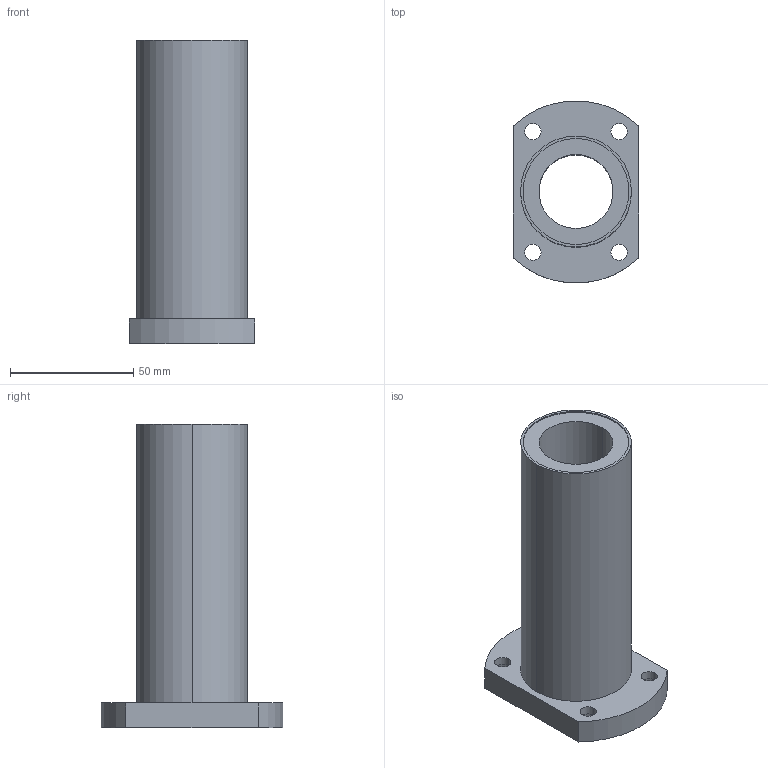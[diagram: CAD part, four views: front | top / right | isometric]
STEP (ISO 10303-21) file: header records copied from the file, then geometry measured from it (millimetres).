
FILE_DESCRIPTION((''),'2;1');
FILE_NAME('C:\Documents and Settings\ｿﾀﾀ蠑ｷ1\ｹﾙﾅﾁ ﾈｭｸ饅\ｺﾎﾇｰﾆﾄﾀﾏ\ﾁｦﾇｰ\LMH__LUU\LMH30LUU.stp','2005-06-15T10:47:12',('ｿﾀﾀ蠑ｷ1'),(''),'Autodesk Inventor 9','Autodesk Inventor 9','');
FILE_SCHEMA(('AUTOMOTIVE_DESIGN { 1 0 10303 214 1 1 1 1 }'));
Length unit declared in the file: millimetre
Products named in the file (1): LMH__
Bounding box: 51 x 73.74 x 123 mm (x, y, z)
Volume: 123130 mm3; surface area: 36229.3 mm2
Topology: 1 solids, 1 shells, 40 faces, 90 edges, 60 vertices
Faces by surface type: cylinder 28, plane 12
Entity records: 1193 total; most frequent: DIRECTION 228, CARTESIAN_POINT 191, ORIENTED_EDGE 180, AXIS2_PLACEMENT_3D 97, EDGE_CURVE 90, VERTEX_POINT 60, EDGE_LOOP 58, CIRCLE 56
